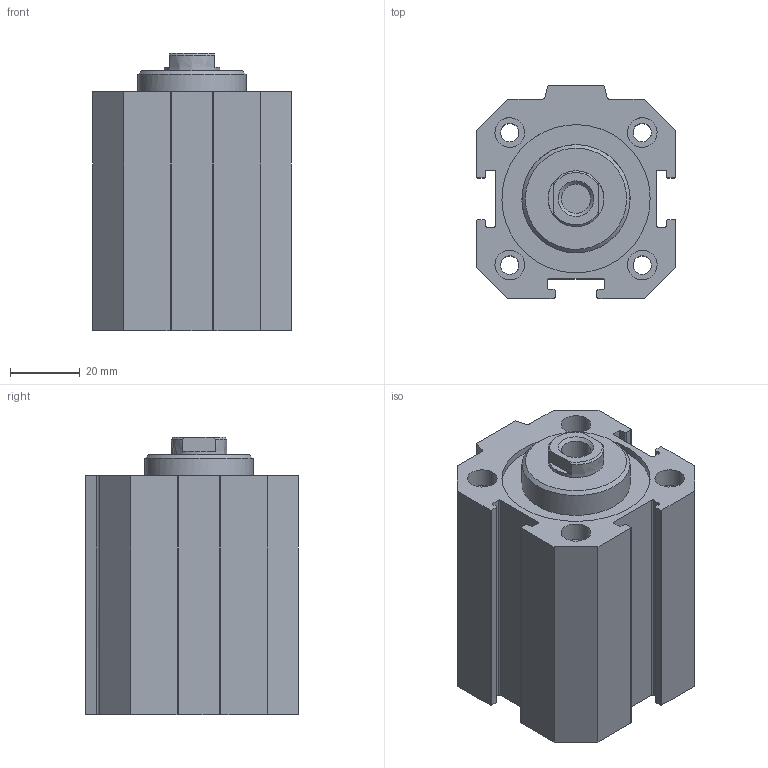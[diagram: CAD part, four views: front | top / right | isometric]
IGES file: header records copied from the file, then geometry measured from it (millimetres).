
Global section: file name: 1511_40_0030; native system: Autodesk Inventor 2014; preprocessor: unknown; author: A. Manieri; date: 20160824.120051; units: millimetre
Bounding box: 57 x 61 x 79.5 mm (x, y, z)
Volume: 161801.8 mm3; surface area: 46802.7 mm2
Topology: 2 solids, 2 shells, 117 faces, 300 edges, 205 vertices
Faces by surface type: bspline 117
